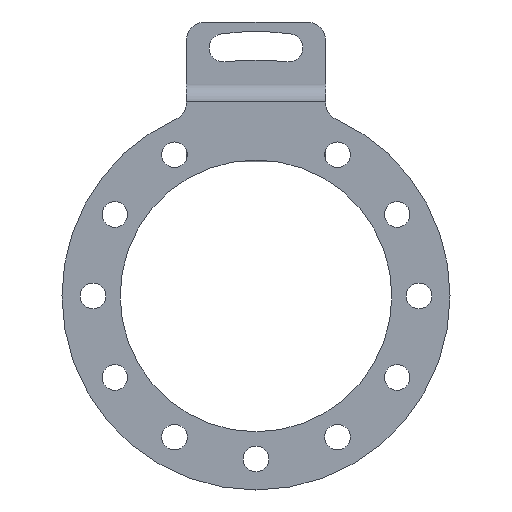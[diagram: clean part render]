
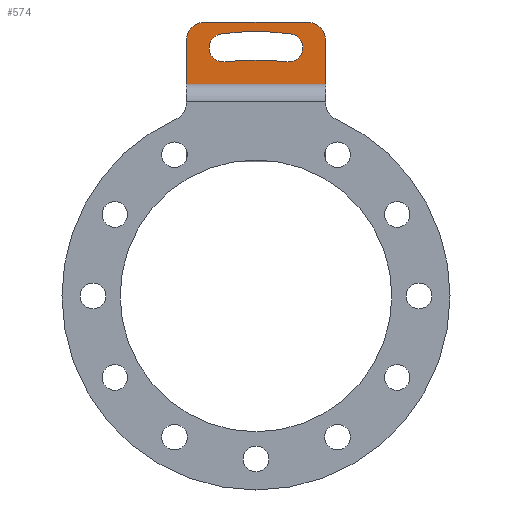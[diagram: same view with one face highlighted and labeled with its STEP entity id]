
A CAD part, top view. The second image highlights one B-rep face of the part: STEP entity #574.
In plain terms, the highlighted planar face has unit normal (0, 0, 1).
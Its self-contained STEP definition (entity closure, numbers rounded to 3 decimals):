
#21 = EDGE_CURVE ( 'NONE', #22, #54, #803, .T. ) ;
#22 = VERTEX_POINT ( 'NONE', #754 ) ;
#54 = VERTEX_POINT ( 'NONE', #826 ) ;
#298 = VERTEX_POINT ( 'NONE', #1310 ) ;
#300 = EDGE_CURVE ( 'NONE', #298, #311, #1309, .T. ) ;
#311 = VERTEX_POINT ( 'NONE', #1268 ) ;
#346 = EDGE_CURVE ( 'NONE', #347, #412, #1213, .T. ) ;
#347 = VERTEX_POINT ( 'NONE', #1209 ) ;
#412 = VERTEX_POINT ( 'NONE', #1439 ) ;
#509 = ORIENTED_EDGE ( 'NONE', *, *, #510, .T. ) ;
#510 = EDGE_CURVE ( 'NONE', #511, #523, #1705, .T. ) ;
#511 = VERTEX_POINT ( 'NONE', #1701 ) ;
#521 = VERTEX_POINT ( 'NONE', #1575 ) ;
#522 = EDGE_CURVE ( 'NONE', #54, #573, #1569, .T. ) ;
#523 = VERTEX_POINT ( 'NONE', #1564 ) ;
#540 = ORIENTED_EDGE ( 'NONE', *, *, #21, .F. ) ;
#541 = ORIENTED_EDGE ( 'NONE', *, *, #542, .F. ) ;
#542 = EDGE_CURVE ( 'NONE', #521, #22, #1718, .T. ) ;
#543 = VERTEX_POINT ( 'NONE', #1714 ) ;
#545 = EDGE_LOOP ( 'NONE', ( #509, #645, #647, #596, #598, #593 ) ) ;
#573 = VERTEX_POINT ( 'NONE', #1918 ) ;
#574 = ADVANCED_FACE ( 'NONE', ( #1917, #1822 ), #1821, .T. ) ;
#576 = EDGE_CURVE ( 'NONE', #543, #521, #1769, .T. ) ;
#592 = ORIENTED_EDGE ( 'NONE', *, *, #576, .F. ) ;
#593 = ORIENTED_EDGE ( 'NONE', *, *, #594, .T. ) ;
#594 = EDGE_CURVE ( 'NONE', #298, #511, #1782, .T. ) ;
#595 = ORIENTED_EDGE ( 'NONE', *, *, #608, .F. ) ;
#596 = ORIENTED_EDGE ( 'NONE', *, *, #597, .T. ) ;
#597 = EDGE_CURVE ( 'NONE', #412, #311, #1777, .T. ) ;
#598 = ORIENTED_EDGE ( 'NONE', *, *, #300, .F. ) ;
#608 = EDGE_CURVE ( 'NONE', #573, #543, #1890, .T. ) ;
#609 = ORIENTED_EDGE ( 'NONE', *, *, #522, .F. ) ;
#610 = EDGE_LOOP ( 'NONE', ( #592, #595, #609, #540, #541 ) ) ;
#645 = ORIENTED_EDGE ( 'NONE', *, *, #646, .T. ) ;
#646 = EDGE_CURVE ( 'NONE', #523, #347, #1784, .T. ) ;
#647 = ORIENTED_EDGE ( 'NONE', *, *, #346, .T. ) ;
#754 = CARTESIAN_POINT ( 'NONE',  ( -4.448, 33.783, -8.9 ) ) ;
#755 = DIRECTION ( 'NONE',  ( 1., 0., 0. ) ) ;
#756 = DIRECTION ( 'NONE',  ( 0., 0., 1. ) ) ;
#801 = CARTESIAN_POINT ( 'NONE',  ( -4.209, 31.974, -8.9 ) ) ;
#802 = AXIS2_PLACEMENT_3D ( 'NONE', #801, #756, #755 ) ;
#803 = CIRCLE ( 'NONE', #802, 1.825 ) ;
#826 = CARTESIAN_POINT ( 'NONE',  ( -6.034, 31.974, -8.9 ) ) ;
#1209 = CARTESIAN_POINT ( 'NONE',  ( -9., 32.8, -8.9 ) ) ;
#1210 = DIRECTION ( 'NONE',  ( 0., -1., 0. ) ) ;
#1211 = VECTOR ( 'NONE', #1210, 1000. ) ;
#1212 = CARTESIAN_POINT ( 'NONE',  ( -9., 35.3, -8.9 ) ) ;
#1213 = LINE ( 'NONE', #1212, #1211 ) ;
#1268 = CARTESIAN_POINT ( 'NONE',  ( 9., 19.6, -8.9 ) ) ;
#1306 = DIRECTION ( 'NONE',  ( 0., -1., 0. ) ) ;
#1307 = VECTOR ( 'NONE', #1306, 1000. ) ;
#1308 = CARTESIAN_POINT ( 'NONE',  ( 9., 35.3, -8.9 ) ) ;
#1309 = LINE ( 'NONE', #1308, #1307 ) ;
#1310 = CARTESIAN_POINT ( 'NONE',  ( 9., 32.8, -8.9 ) ) ;
#1439 = CARTESIAN_POINT ( 'NONE',  ( -9., 19.6, -8.9 ) ) ;
#1564 = CARTESIAN_POINT ( 'NONE',  ( -6.5, 35.3, -8.9 ) ) ;
#1565 = DIRECTION ( 'NONE',  ( 1., 0., 0. ) ) ;
#1566 = DIRECTION ( 'NONE',  ( 0., 0., 1. ) ) ;
#1567 = CARTESIAN_POINT ( 'NONE',  ( -4.209, 31.974, -8.9 ) ) ;
#1568 = AXIS2_PLACEMENT_3D ( 'NONE', #1567, #1566, #1565 ) ;
#1569 = CIRCLE ( 'NONE', #1568, 1.825 ) ;
#1575 = CARTESIAN_POINT ( 'NONE',  ( 4.448, 33.783, -8.9 ) ) ;
#1580 = CARTESIAN_POINT ( 'NONE',  ( 0., 0., -8.9 ) ) ;
#1701 = CARTESIAN_POINT ( 'NONE',  ( 6.5, 35.3, -8.9 ) ) ;
#1702 = DIRECTION ( 'NONE',  ( -1., 0., 0. ) ) ;
#1703 = VECTOR ( 'NONE', #1702, 1000. ) ;
#1704 = CARTESIAN_POINT ( 'NONE',  ( -9., 35.3, -8.9 ) ) ;
#1705 = LINE ( 'NONE', #1704, #1703 ) ;
#1714 = CARTESIAN_POINT ( 'NONE',  ( 3.971, 30.165, -8.9 ) ) ;
#1715 = DIRECTION ( 'NONE',  ( 1., 0., 0. ) ) ;
#1716 = DIRECTION ( 'NONE',  ( 0., 0., 1. ) ) ;
#1717 = AXIS2_PLACEMENT_3D ( 'NONE', #1580, #1716, #1715 ) ;
#1718 = CIRCLE ( 'NONE', #1717, 34.075 ) ;
#1731 = DIRECTION ( 'NONE',  ( 1., 0., 0. ) ) ;
#1732 = DIRECTION ( 'NONE',  ( 0., 0., 1. ) ) ;
#1762 = DIRECTION ( 'NONE',  ( 1., 0., 0. ) ) ;
#1763 = DIRECTION ( 'NONE',  ( 0., 0., 1. ) ) ;
#1764 = AXIS2_PLACEMENT_3D ( 'NONE', #1783, #1763, #1762 ) ;
#1765 = DIRECTION ( 'NONE',  ( 1., 0., 0. ) ) ;
#1766 = DIRECTION ( 'NONE',  ( 0., 0., 1. ) ) ;
#1767 = CARTESIAN_POINT ( 'NONE',  ( 4.209, 31.974, -8.9 ) ) ;
#1768 = AXIS2_PLACEMENT_3D ( 'NONE', #1767, #1766, #1765 ) ;
#1769 = CIRCLE ( 'NONE', #1768, 1.825 ) ;
#1776 = CARTESIAN_POINT ( 'NONE',  ( -9., 19.6, -8.9 ) ) ;
#1777 = LINE ( 'NONE', #1776, #1916 ) ;
#1778 = DIRECTION ( 'NONE',  ( 1., 0., 0. ) ) ;
#1779 = DIRECTION ( 'NONE',  ( 0., 0., 1. ) ) ;
#1780 = CARTESIAN_POINT ( 'NONE',  ( 6.5, 32.8, -8.9 ) ) ;
#1781 = AXIS2_PLACEMENT_3D ( 'NONE', #1780, #1779, #1778 ) ;
#1782 = CIRCLE ( 'NONE', #1781, 2.5 ) ;
#1783 = CARTESIAN_POINT ( 'NONE',  ( -6.5, 32.8, -8.9 ) ) ;
#1784 = CIRCLE ( 'NONE', #1764, 2.5 ) ;
#1819 = AXIS2_PLACEMENT_3D ( 'NONE', #1820, #1732, #1731 ) ;
#1820 = CARTESIAN_POINT ( 'NONE',  ( -9., 35.3, -8.9 ) ) ;
#1821 = PLANE ( 'NONE',  #1819 ) ;
#1822 = FACE_OUTER_BOUND ( 'NONE', #545, .T. ) ;
#1882 = DIRECTION ( 'NONE',  ( 1., 0., 0. ) ) ;
#1883 = DIRECTION ( 'NONE',  ( 0., 0., -1. ) ) ;
#1884 = CARTESIAN_POINT ( 'NONE',  ( 0., 0., -8.9 ) ) ;
#1885 = AXIS2_PLACEMENT_3D ( 'NONE', #1884, #1883, #1882 ) ;
#1890 = CIRCLE ( 'NONE', #1885, 30.425 ) ;
#1915 = DIRECTION ( 'NONE',  ( 1., 0., 0. ) ) ;
#1916 = VECTOR ( 'NONE', #1915, 1000. ) ;
#1917 = FACE_BOUND ( 'NONE', #610, .T. ) ;
#1918 = CARTESIAN_POINT ( 'NONE',  ( -3.971, 30.165, -8.9 ) ) ;
